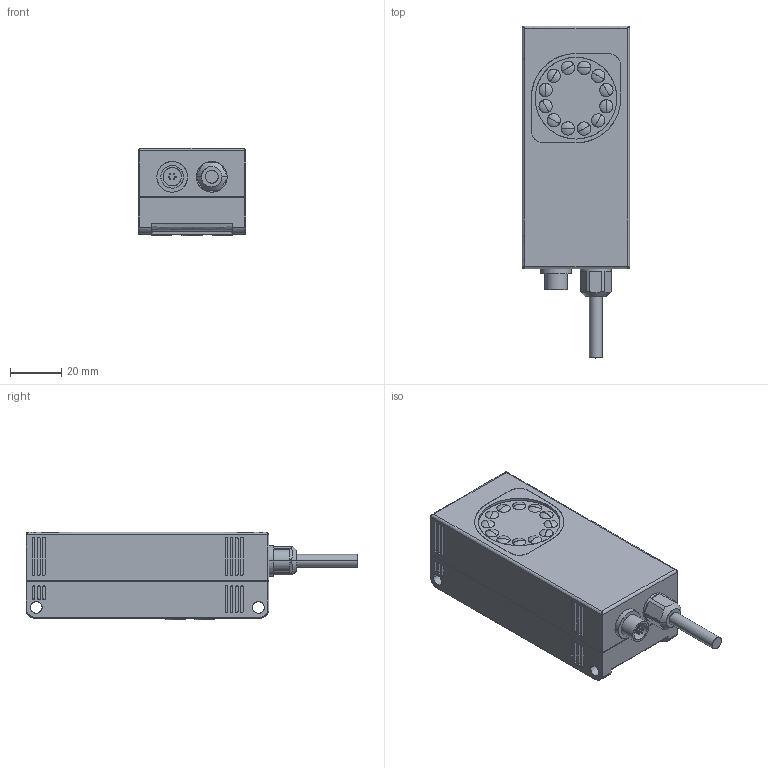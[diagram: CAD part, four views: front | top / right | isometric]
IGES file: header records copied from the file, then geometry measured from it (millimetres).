
Global section: file name: CVS.igs; native system: OneSpace Designer 3D IGES; preprocessor: 11.60D  09-Mar-2003; date: 20070828.110952; units: millimetre
Bounding box: 42 x 129.95 x 34.3 mm (x, y, z)
Surface area: 21858.5 mm2 (no closed solid volume)
Topology: 0 solids, 0 shells, 487 faces, 4989 edges, 4989 vertices
Faces by surface type: bspline 447, revolution 40
